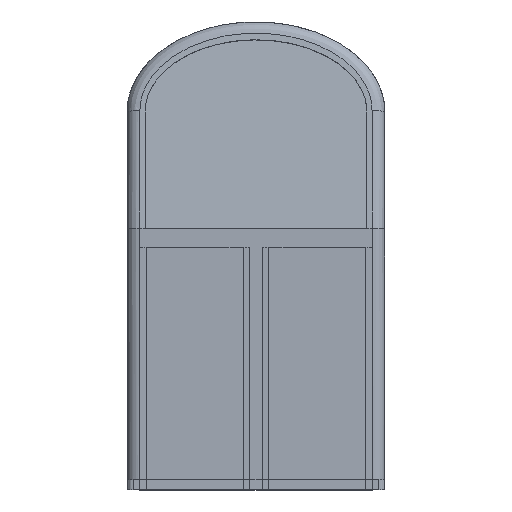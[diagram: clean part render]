
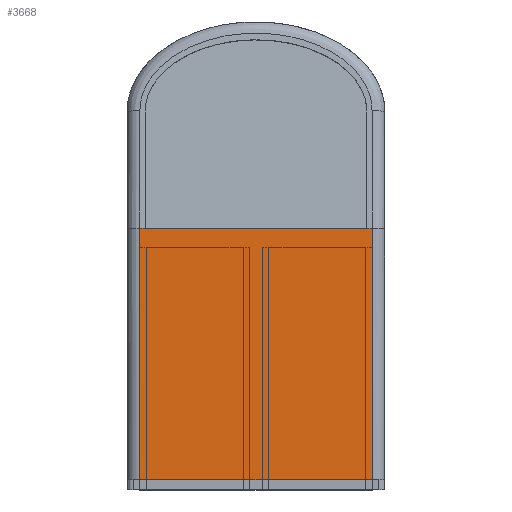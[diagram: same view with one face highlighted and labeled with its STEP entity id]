
A CAD part, top view. The second image highlights one B-rep face of the part: STEP entity #3668.
In plain terms, the highlighted planar face has unit normal (0, 0, 1).
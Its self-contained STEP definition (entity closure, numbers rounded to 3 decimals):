
#72 = AXIS2_PLACEMENT_3D ( 'NONE', #569, #575, #576 ) ;
#144 = EDGE_CURVE ( 'NONE', #2319, #2309, #2438, .T. ) ;
#173 = EDGE_CURVE ( 'NONE', #2826, #2817, #2396, .T. ) ;
#174 = EDGE_CURVE ( 'NONE', #2803, #2319, #2385, .T. ) ;
#175 = EDGE_CURVE ( 'NONE', #2803, #2817, #2384, .T. ) ;
#177 = EDGE_CURVE ( 'NONE', #2309, #2775, #2380, .T. ) ;
#182 = EDGE_CURVE ( 'NONE', #2826, #2775, #2709, .T. ) ;
#490 = FACE_OUTER_BOUND ( 'NONE', #2869, .T. ) ;
#568 = PLANE ( 'NONE',  #72 ) ;
#569 = CARTESIAN_POINT ( 'NONE',  ( 0., 57., 22. ) ) ;
#575 = DIRECTION ( 'NONE',  ( 0., 0., 1. ) ) ;
#576 = DIRECTION ( 'NONE',  ( 1., 0., 0. ) ) ;
#967 = CARTESIAN_POINT ( 'NONE',  ( 18., 0., 22. ) ) ;
#977 = CARTESIAN_POINT ( 'NONE',  ( -18., 0., 22. ) ) ;
#1034 = CARTESIAN_POINT ( 'NONE',  ( 18., 39., 22. ) ) ;
#1062 = CARTESIAN_POINT ( 'NONE',  ( -18., 39., 22. ) ) ;
#1076 = CARTESIAN_POINT ( 'NONE',  ( -17.2, 39., 22. ) ) ;
#1085 = CARTESIAN_POINT ( 'NONE',  ( 17.2, 39., 22. ) ) ;
#1745 = ORIENTED_EDGE ( 'NONE', *, *, #182, .F. ) ;
#1746 = ORIENTED_EDGE ( 'NONE', *, *, #177, .T. ) ;
#1748 = ORIENTED_EDGE ( 'NONE', *, *, #173, .T. ) ;
#1752 = ORIENTED_EDGE ( 'NONE', *, *, #174, .T. ) ;
#1755 = ORIENTED_EDGE ( 'NONE', *, *, #175, .F. ) ;
#2216 = ORIENTED_EDGE ( 'NONE', *, *, #144, .T. ) ;
#2309 = VERTEX_POINT ( 'NONE', #967 ) ;
#2319 = VERTEX_POINT ( 'NONE', #977 ) ;
#2380 = LINE ( 'NONE', #3160, #2390 ) ;
#2381 = VECTOR ( 'NONE', #3166, 1000. ) ;
#2383 = VECTOR ( 'NONE', #3169, 1000. ) ;
#2384 = LINE ( 'NONE', #3168, #2381 ) ;
#2385 = LINE ( 'NONE', #3170, #2383 ) ;
#2389 = VECTOR ( 'NONE', #3172, 1000. ) ;
#2390 = VECTOR ( 'NONE', #3157, 1000. ) ;
#2396 = LINE ( 'NONE', #3173, #2389 ) ;
#2437 = VECTOR ( 'NONE', #3314, 1000. ) ;
#2438 = LINE ( 'NONE', #3308, #2437 ) ;
#2706 = VECTOR ( 'NONE', #3175, 1000. ) ;
#2709 = LINE ( 'NONE', #3177, #2706 ) ;
#2775 = VERTEX_POINT ( 'NONE', #1034 ) ;
#2803 = VERTEX_POINT ( 'NONE', #1062 ) ;
#2817 = VERTEX_POINT ( 'NONE', #1076 ) ;
#2826 = VERTEX_POINT ( 'NONE', #1085 ) ;
#2869 = EDGE_LOOP ( 'NONE', ( #2216, #1746, #1745, #1748, #1755, #1752 ) ) ;
#3157 = DIRECTION ( 'NONE',  ( 0., 1., 0. ) ) ;
#3160 = CARTESIAN_POINT ( 'NONE',  ( 18., 39., 22. ) ) ;
#3166 = DIRECTION ( 'NONE',  ( 1., 0., 0. ) ) ;
#3168 = CARTESIAN_POINT ( 'NONE',  ( 0., 39., 22. ) ) ;
#3169 = DIRECTION ( 'NONE',  ( 0., -1., 0. ) ) ;
#3170 = CARTESIAN_POINT ( 'NONE',  ( -18., 0., 22. ) ) ;
#3172 = DIRECTION ( 'NONE',  ( -1., 0., 0. ) ) ;
#3173 = CARTESIAN_POINT ( 'NONE',  ( 17.2, 39., 22. ) ) ;
#3175 = DIRECTION ( 'NONE',  ( 1., 0., 0. ) ) ;
#3177 = CARTESIAN_POINT ( 'NONE',  ( 0., 39., 22. ) ) ;
#3308 = CARTESIAN_POINT ( 'NONE',  ( -20., 0., 22. ) ) ;
#3314 = DIRECTION ( 'NONE',  ( 1., 0., 0. ) ) ;
#3668 = ADVANCED_FACE ( 'NONE', ( #490 ), #568, .T. ) ;
